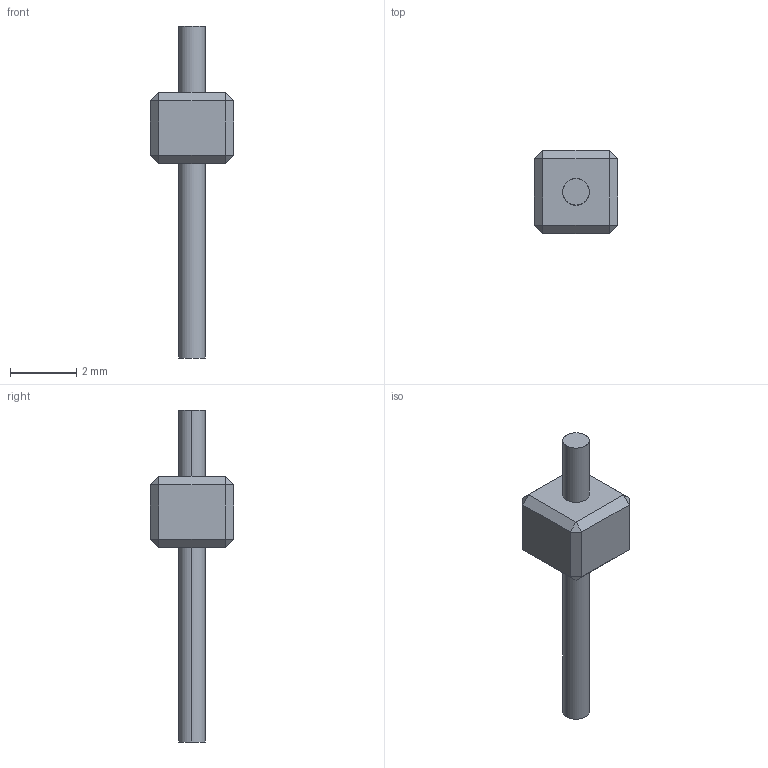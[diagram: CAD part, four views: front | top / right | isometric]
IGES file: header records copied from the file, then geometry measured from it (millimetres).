
Start section: SolidWorks IGES file using analytic representation for surfaces
Global section: file name: C:\Users\AndreBernot\Downloads\K-RACER-L_3D_SW\K-RACER-L_3D_SW\PICOT.IGS; native system: SolidWorks 2015; preprocessor: SolidWorks 2015; author: AndreBernot; date: 170922.151341; units: millimetre
Bounding box: 2.51 x 2.51 x 10 mm (x, y, z)
Surface area: 49.5 mm2 (no closed solid volume)
Topology: 0 solids, 0 shells, 32 faces, 176 edges, 176 vertices
Faces by surface type: bspline 28, revolution 4
